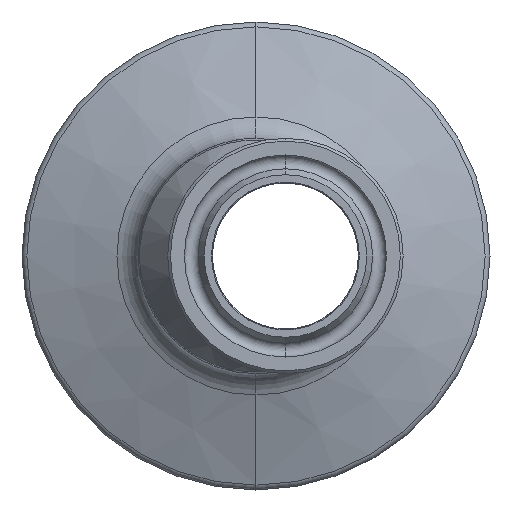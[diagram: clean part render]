
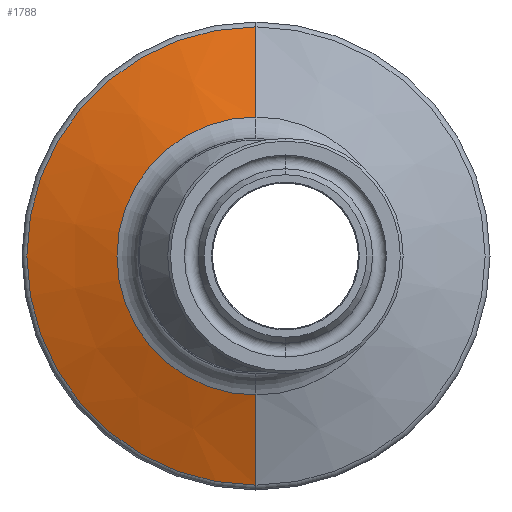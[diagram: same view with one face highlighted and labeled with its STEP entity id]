
A CAD part, left-side view. The second image highlights one B-rep face of the part: STEP entity #1788.
In plain terms, the highlighted conical face has half-angle 70 degrees and reference radius 15.003 mm.
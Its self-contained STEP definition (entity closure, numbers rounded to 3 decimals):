
#18 = CARTESIAN_POINT ( 'NONE',  ( 76.333, 0., 0. ) ) ;
#33 = DIRECTION ( 'NONE',  ( 0., 0., 1. ) ) ;
#38 = DIRECTION ( 'NONE',  ( -1., 0., 0. ) ) ;
#101 = CARTESIAN_POINT ( 'NONE',  ( 72.795, 0., -15.003 ) ) ;
#106 = VECTOR ( 'NONE', #1359, 1000. ) ;
#123 = AXIS2_PLACEMENT_3D ( 'NONE', #132, #1384, #310 ) ;
#127 = VERTEX_POINT ( 'NONE', #498 ) ;
#130 = EDGE_CURVE ( 'NONE', #127, #2139, #388, .T. ) ;
#132 = CARTESIAN_POINT ( 'NONE',  ( 72.795, 0., 0. ) ) ;
#310 = DIRECTION ( 'NONE',  ( 0., 0., 1. ) ) ;
#381 = LINE ( 'NONE', #2230, #2236 ) ;
#388 = CIRCLE ( 'NONE', #1059, 24.724 ) ;
#425 = EDGE_CURVE ( 'NONE', #818, #127, #381, .T. ) ;
#498 = CARTESIAN_POINT ( 'NONE',  ( 76.333, 0., 24.724 ) ) ;
#657 = DIRECTION ( 'NONE',  ( 1., 0., 0. ) ) ;
#783 = EDGE_LOOP ( 'NONE', ( #1673, #1976, #1509, #1042 ) ) ;
#818 = VERTEX_POINT ( 'NONE', #2092 ) ;
#977 = DIRECTION ( 'NONE',  ( 0.342, 0., 0.94 ) ) ;
#1042 = ORIENTED_EDGE ( 'NONE', *, *, #1091, .F. ) ;
#1059 = AXIS2_PLACEMENT_3D ( 'NONE', #18, #38, #33 ) ;
#1091 = EDGE_CURVE ( 'NONE', #1901, #2139, #1534, .T. ) ;
#1208 = CARTESIAN_POINT ( 'NONE',  ( 72.795, 0., 0. ) ) ;
#1359 = DIRECTION ( 'NONE',  ( 0.342, 0., -0.94 ) ) ;
#1384 = DIRECTION ( 'NONE',  ( -1., 0., 0. ) ) ;
#1509 = ORIENTED_EDGE ( 'NONE', *, *, #130, .T. ) ;
#1534 = LINE ( 'NONE', #101, #106 ) ;
#1548 = CONICAL_SURFACE ( 'NONE', #2203, 15.003, 1.222 ) ;
#1651 = FACE_OUTER_BOUND ( 'NONE', #783, .T. ) ;
#1673 = ORIENTED_EDGE ( 'NONE', *, *, #1784, .F. ) ;
#1784 = EDGE_CURVE ( 'NONE', #818, #1901, #2081, .T. ) ;
#1788 = ADVANCED_FACE ( 'NONE', ( #1651 ), #1548, .T. ) ;
#1901 = VERTEX_POINT ( 'NONE', #2114 ) ;
#1976 = ORIENTED_EDGE ( 'NONE', *, *, #425, .T. ) ;
#2081 = CIRCLE ( 'NONE', #123, 15.003 ) ;
#2092 = CARTESIAN_POINT ( 'NONE',  ( 72.795, 0., 15.003 ) ) ;
#2095 = DIRECTION ( 'NONE',  ( 0., 0., -1. ) ) ;
#2114 = CARTESIAN_POINT ( 'NONE',  ( 72.795, 0., -15.003 ) ) ;
#2139 = VERTEX_POINT ( 'NONE', #2314 ) ;
#2203 = AXIS2_PLACEMENT_3D ( 'NONE', #1208, #657, #2095 ) ;
#2230 = CARTESIAN_POINT ( 'NONE',  ( 72.795, 0., 15.003 ) ) ;
#2236 = VECTOR ( 'NONE', #977, 1000. ) ;
#2314 = CARTESIAN_POINT ( 'NONE',  ( 76.333, 0., -24.724 ) ) ;
